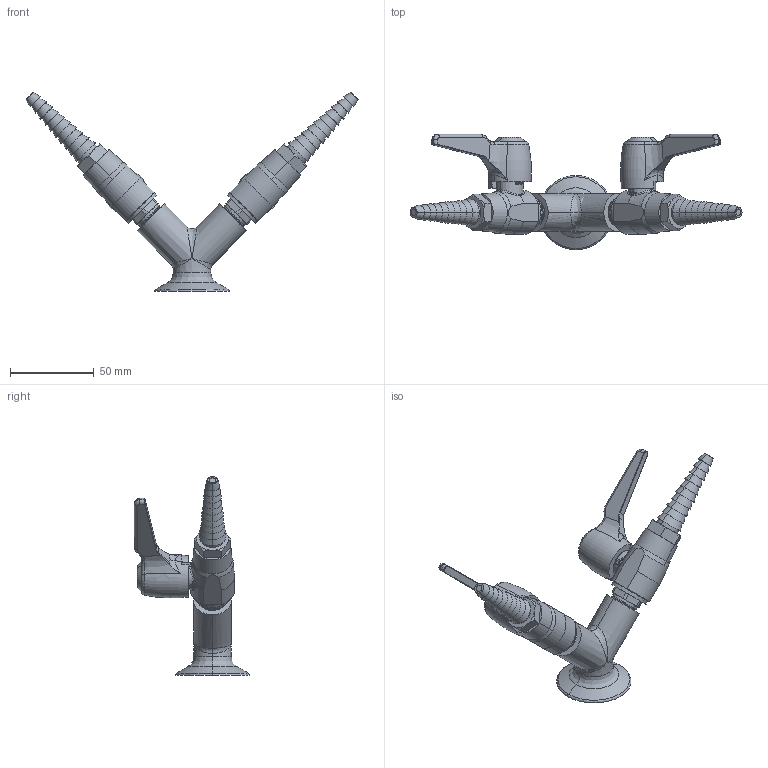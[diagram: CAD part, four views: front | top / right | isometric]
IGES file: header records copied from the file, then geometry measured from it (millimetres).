
Start section:  PTC IGES file: LGB1-31M-60.igs
Global section: file name: LGB1-31M-60.igs; native system: Creo Parametric by PTC Inc.; preprocessor: 2014500; author: usch_engrender; organization: Unknown; date: 20151201.123150; units: inch
Bounding box: 198.45 x 68.97 x 118.91 mm (x, y, z)
Volume: 103167.2 mm3; surface area: 42844.7 mm2
Topology: 3 solids, 3 shells, 731 faces, 1731 edges, 1064 vertices
Faces by surface type: revolution 378, bspline 289, extrusion 64
